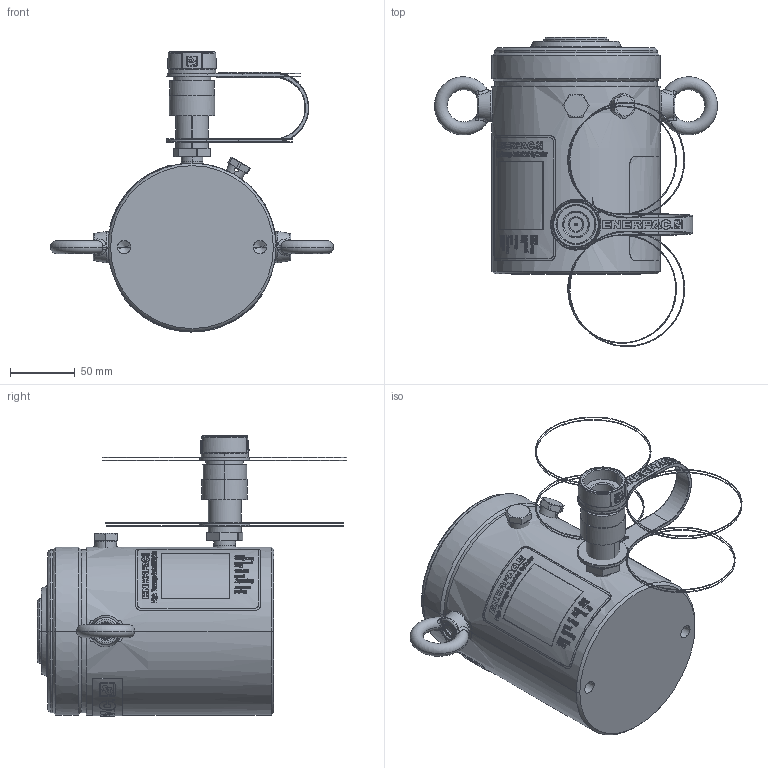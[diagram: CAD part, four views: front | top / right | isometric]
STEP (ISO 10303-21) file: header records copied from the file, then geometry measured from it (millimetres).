
FILE_DESCRIPTION((''),'2;1');
FILE_NAME('HCG502','2017-07-20T',('Akhilesh.Subrahmanya'),(''),'CREO PARAMETRIC BY PTC INC, 2015290','CREO PARAMETRIC BY PTC INC, 2015290','');
FILE_SCHEMA(('CONFIG_CONTROL_DESIGN'));
Products named in the file (1): HCG502
Bounding box: 218.97 x 239.53 x 216.66 mm (x, y, z)
Surface area: 281780.3 mm2 (no closed solid volume)
Topology: 0 solids, 0 shells, 907 faces, 7234 edges, 7174 vertices
Faces by surface type: bspline 854, torus 53
Entity records: 288436 total; most frequent: CARTESIAN_POINT 230280, DIRECTION 7912, DEFINITIONAL_REPRESENTATION 7127, PCURVE 7127, COMPOSITE_CURVE_SEGMENT 7127, TRIMMED_CURVE 6639, B_SPLINE_CURVE_WITH_KNOTS 5928, VECTOR 5472
